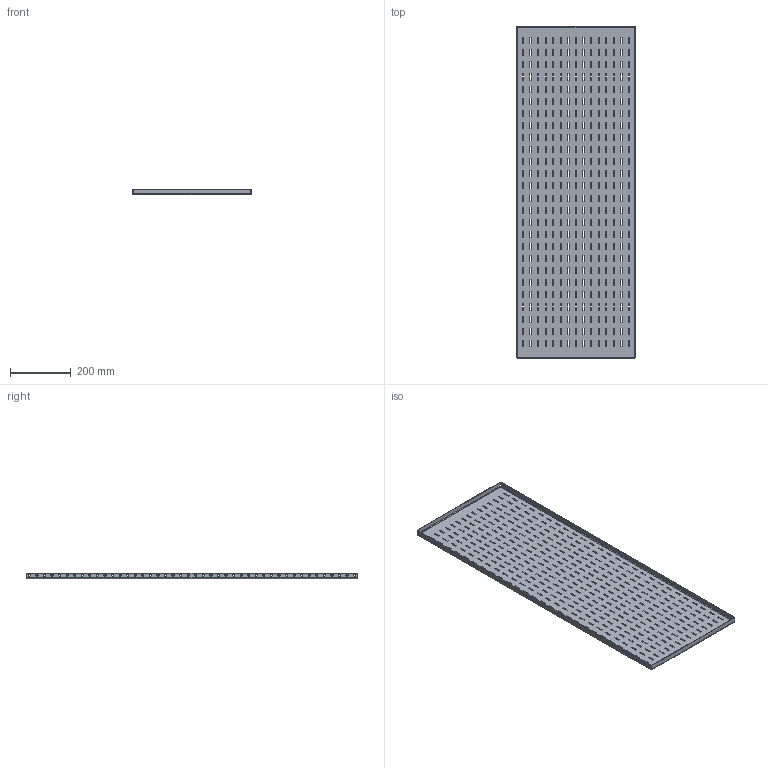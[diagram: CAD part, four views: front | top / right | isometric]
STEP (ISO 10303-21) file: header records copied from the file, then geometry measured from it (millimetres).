
FILE_DESCRIPTION(('STEP AP203'), '1');
FILE_NAME('Êîìïëåêò îãðàæäåíèÿ ñáîðíîé øèíû çàäíèé 2200õ500 ìì OptiBox M 419337 ÊÝÀÇ', '', ('UNSPECIFIED'), ('UNSPECIFIED'), 'C3D Converter', 'C3D Toolkit', '');
FILE_SCHEMA(('CONFIG_CONTROL_DESIGN'));
Length unit declared in the file: millimetre
Bounding box: 392 x 1097 x 19 mm (x, y, z)
Volume: 665511.8 mm3; surface area: 923135.3 mm2
Topology: 1 solids, 1 shells, 1686 faces, 5020 edges, 3336 vertices
Faces by surface type: plane 1582, cylinder 96, bspline 8
Full cylindrical faces by diameter (mm): 7.3 x88
Entity records: 58448 total; most frequent: CARTESIAN_POINT 11471, ORIENTED_EDGE 9864, DIRECTION 8446, EDGE_CURVE 4932, LINE 4736, VECTOR 4736, VERTEX_POINT 3336, EDGE_LOOP 2730
